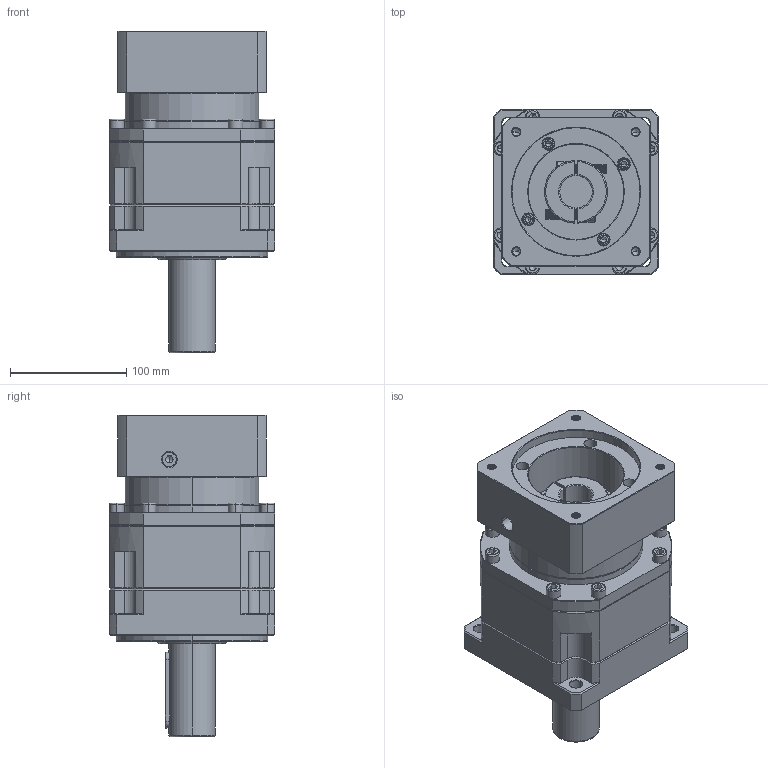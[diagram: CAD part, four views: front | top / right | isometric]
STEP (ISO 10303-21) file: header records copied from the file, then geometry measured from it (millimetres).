
FILE_DESCRIPTION (( 'STEP AP214' ), '1' );
FILE_NAME ('ZB142A-D40-L1-28-110-145-M8.step', '2023-03-17T10:45:49', ( '' ), ( '' ), 'SwSTEP 2.0', 'SolidWorks 2016', '' );
FILE_SCHEMA (( 'AUTOMOTIVE_DESIGN' ));
Length unit declared in the file: millimetre
Products named in the file (1): ZB142A-D40-L1-28-110-145-M8
Bounding box: 142 x 142 x 276.3 mm (x, y, z)
Volume: 2973107.5 mm3; surface area: 284013.6 mm2
Topology: 7 solids, 7 shells, 2280 faces, 5898 edges, 3740 vertices
Faces by surface type: plane 1018, cylinder 513, cone 381, bspline 310, torus 58
Entity records: 124931 total; most frequent: CARTESIAN_POINT 46951, ORIENTED_EDGE 11688, DIRECTION 9870, EDGE_CURVE 5844, VERTEX_POINT 3740, LINE 3594, VECTOR 3594, AXIS2_PLACEMENT_3D 3138
